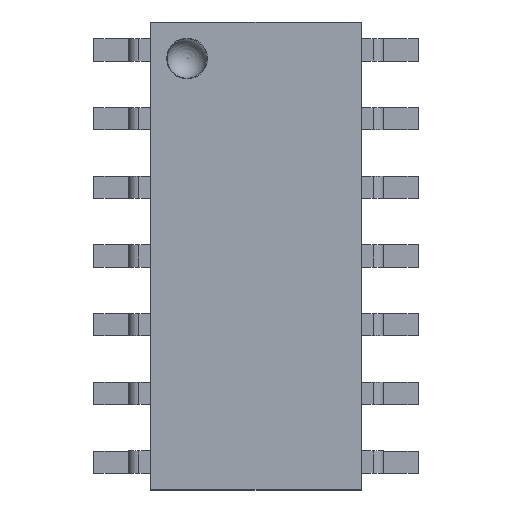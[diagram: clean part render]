
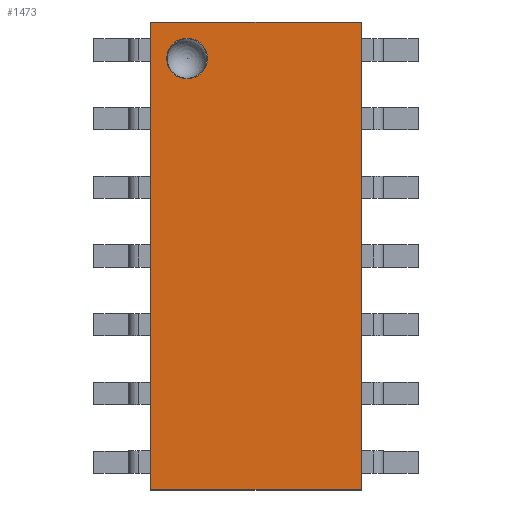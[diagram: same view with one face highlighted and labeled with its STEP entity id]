
A CAD part, top view. The second image highlights one B-rep face of the part: STEP entity #1473.
In plain terms, the highlighted planar face has unit normal (0, 0, 1).
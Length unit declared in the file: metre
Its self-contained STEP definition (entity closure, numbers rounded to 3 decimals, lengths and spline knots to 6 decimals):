
#1473 = ADVANCED_FACE( '', ( #3133, #3134 ), #3135, .T. );
#3133 = FACE_OUTER_BOUND( '', #5378, .T. );
#3134 = FACE_BOUND( '', #5379, .T. );
#3135 = PLANE( '', #5380 );
#5378 = EDGE_LOOP( '', ( #7531, #7532, #7533, #7534 ) );
#5379 = EDGE_LOOP( '', ( #7535 ) );
#5380 = AXIS2_PLACEMENT_3D( '', #7536, #7537, #7538 );
#7531 = ORIENTED_EDGE( '', *, *, #8279, .T. );
#7532 = ORIENTED_EDGE( '', *, *, #8286, .T. );
#7533 = ORIENTED_EDGE( '', *, *, #8295, .T. );
#7534 = ORIENTED_EDGE( '', *, *, #8297, .T. );
#7535 = ORIENTED_EDGE( '', *, *, #8328, .T. );
#7536 = CARTESIAN_POINT( '', ( -0.00195, -0.004325, 0.001675 ) );
#7537 = DIRECTION( '', ( 0., 0., 1. ) );
#7538 = DIRECTION( '', ( 1., 0., 0. ) );
#8279 = EDGE_CURVE( '', #8477, #8474, #8478, .T. );
#8286 = EDGE_CURVE( '', #8474, #8486, #8487, .T. );
#8295 = EDGE_CURVE( '', #8486, #8497, #8499, .T. );
#8297 = EDGE_CURVE( '', #8497, #8477, #8501, .T. );
#8328 = EDGE_CURVE( '', #8531, #8531, #8532, .F. );
#8474 = VERTEX_POINT( '', #8678 );
#8477 = VERTEX_POINT( '', #8682 );
#8478 = LINE( '', #8683, #8684 );
#8486 = VERTEX_POINT( '', #8694 );
#8487 = LINE( '', #8695, #8696 );
#8497 = VERTEX_POINT( '', #8709 );
#8499 = LINE( '', #8712, #8713 );
#8501 = LINE( '', #8715, #8716 );
#8531 = VERTEX_POINT( '', #8747 );
#8532 = CIRCLE( '', #8748, 0.000375 );
#8678 = CARTESIAN_POINT( '', ( 0.00195, 0.004325, 0.001675 ) );
#8682 = CARTESIAN_POINT( '', ( 0.00195, -0.004325, 0.001675 ) );
#8683 = CARTESIAN_POINT( '', ( 0.00195, 0., 0.001675 ) );
#8684 = VECTOR( '', #8888, 1. );
#8694 = CARTESIAN_POINT( '', ( -0.00195, 0.004325, 0.001675 ) );
#8695 = CARTESIAN_POINT( '', ( 0., 0.004325, 0.001675 ) );
#8696 = VECTOR( '', #8891, 1. );
#8709 = CARTESIAN_POINT( '', ( -0.00195, -0.004325, 0.001675 ) );
#8712 = CARTESIAN_POINT( '', ( -0.00195, 0., 0.001675 ) );
#8713 = VECTOR( '', #8896, 1. );
#8715 = CARTESIAN_POINT( '', ( 0., -0.004325, 0.001675 ) );
#8716 = VECTOR( '', #8897, 1. );
#8747 = CARTESIAN_POINT( '', ( -0.0009, 0.00365, 0.001675 ) );
#8748 = AXIS2_PLACEMENT_3D( '', #8902, #8903, #8904 );
#8888 = DIRECTION( '', ( 0., 1., 0. ) );
#8891 = DIRECTION( '', ( -1., 0., 0. ) );
#8896 = DIRECTION( '', ( 0., -1., 0. ) );
#8897 = DIRECTION( '', ( 1., 0., 0. ) );
#8902 = CARTESIAN_POINT( '', ( -0.001275, 0.00365, 0.001675 ) );
#8903 = DIRECTION( '', ( 0., 0., 1. ) );
#8904 = DIRECTION( '', ( 1., 0., 0. ) );
